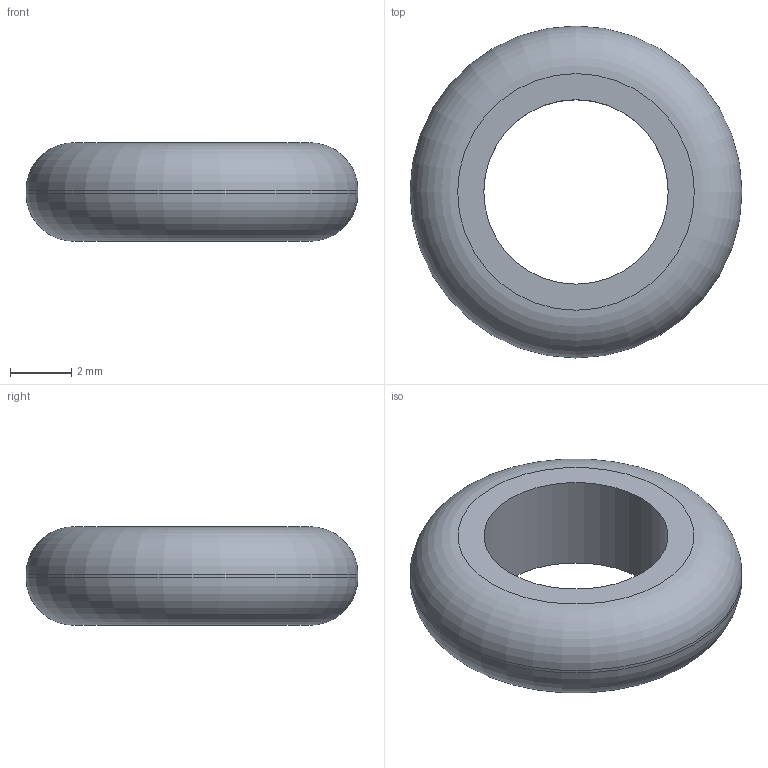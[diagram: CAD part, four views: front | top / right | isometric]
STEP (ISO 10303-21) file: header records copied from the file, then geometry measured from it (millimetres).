
FILE_DESCRIPTION(('Open CASCADE Model'),'2;1');
FILE_NAME('Open CASCADE Shape Model','2026-10-09T16:33:03',('Author'),( 'Open CASCADE'),'Open CASCADE STEP processor 8.0','build123d', 'Unknown');
FILE_SCHEMA(('AUTOMOTIVE_DESIGN { 1 0 10303 214 1 1 1 1 }'));
Length unit declared in the file: millimetre
Products named in the file (1): COMPOUND
Bounding box: 10.8 x 10.8 x 3.2 mm (x, y, z)
Volume: 169.9 mm3; surface area: 248.3 mm2
Topology: 1 solids, 1 shells, 6 faces, 10 edges, 6 vertices
Faces by surface type: cylinder 2, plane 2, torus 2
Full cylindrical faces by diameter (mm): 6 x1, 10.8 x1
Entity records: 290 total; most frequent: DIRECTION 52, CARTESIAN_POINT 43, ORIENTED_EDGE 20, PCURVE 20, DEFINITIONAL_REPRESENTATION 20, LINE 18, VECTOR 18, AXIS2_PLACEMENT_3D 15
